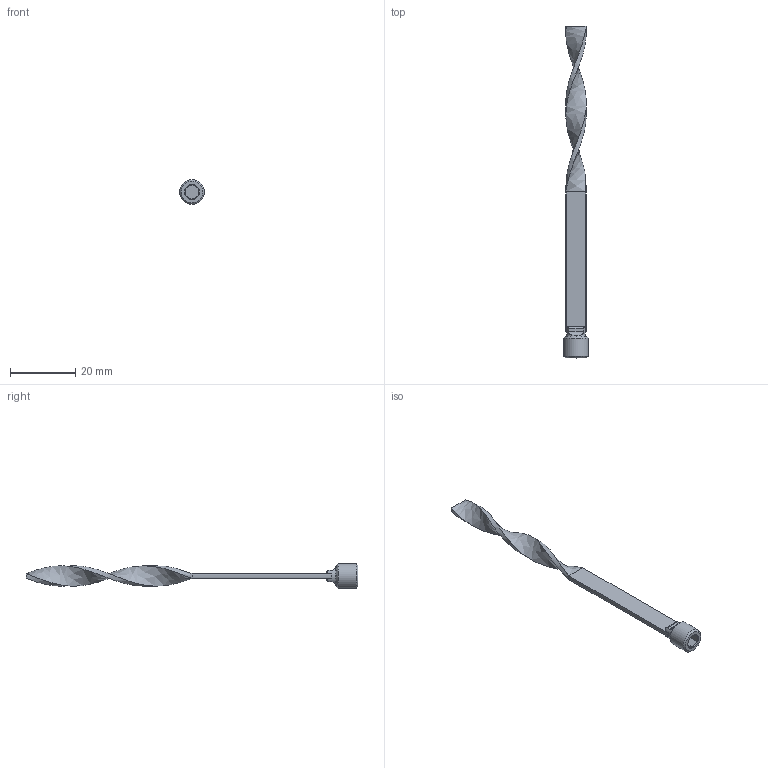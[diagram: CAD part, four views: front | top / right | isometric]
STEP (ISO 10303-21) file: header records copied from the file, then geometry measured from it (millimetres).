
FILE_DESCRIPTION(/* description */ (''),/* implementation_level */ '2;1');
FILE_NAME(/* name */ 'C:/Users/drich/Desktop/TB16X4 v2.step',/* time_stamp */ '2020-01-14T09:03:12-06:00',/* author */ (''),/* organization */ (''),/* preprocessor_version */ 'ST-DEVELOPER v18',/* originating_system */ 'Autodesk Translation Framework v8.12.0.6',/* authorisation */ '');
FILE_SCHEMA (('AUTOMOTIVE_DESIGN { 1 0 10303 214 3 1 1 }'));
Length unit declared in the file: inch
Products named in the file (1): TB16X4
Bounding box: 7.62 x 101.6 x 7.62 mm (x, y, z)
Volume: 1102.7 mm3; surface area: 1765.6 mm2
Topology: 2 solids, 2 shells, 48 faces, 123 edges, 81 vertices
Faces by surface type: plane 22, cylinder 9, cone 8, torus 5, bspline 4
Full cylindrical faces by diameter (mm): 7.616 x1
Entity records: 1780 total; most frequent: CARTESIAN_POINT 601, ORIENTED_EDGE 246, DIRECTION 225, EDGE_CURVE 123, AXIS2_PLACEMENT_3D 83, VERTEX_POINT 81, LINE 59, VECTOR 59
